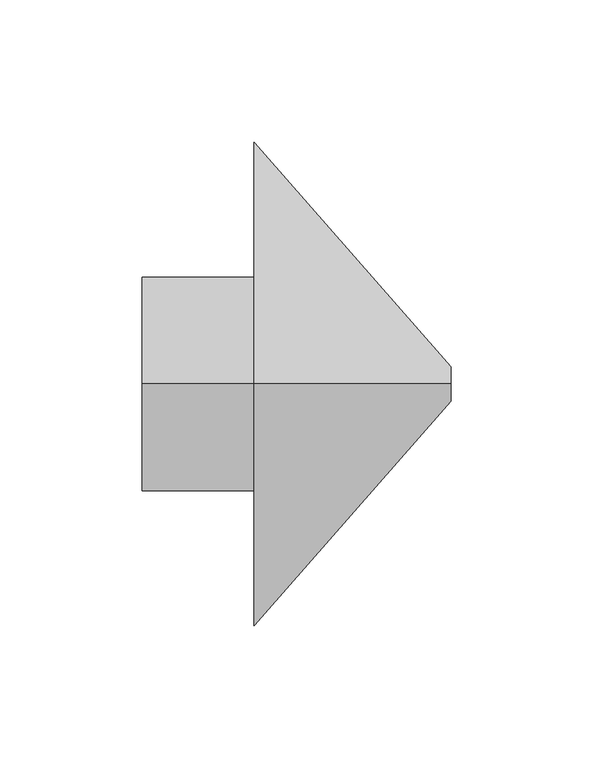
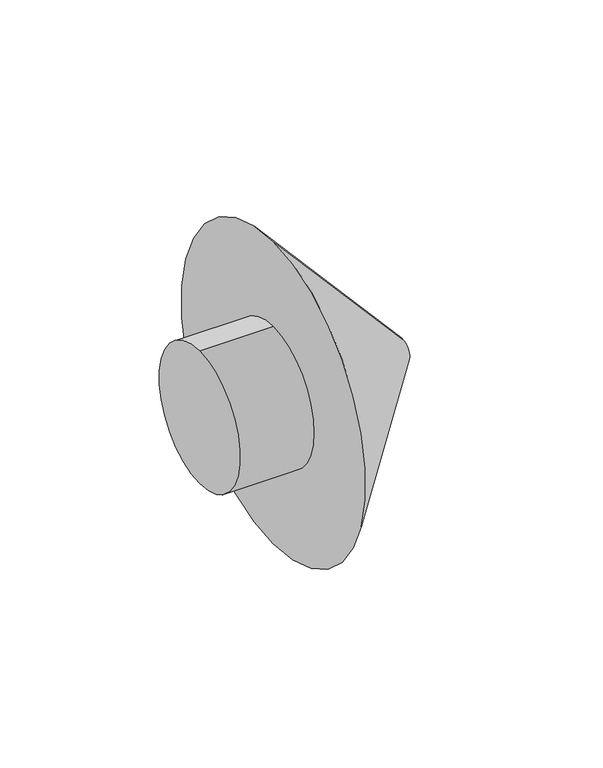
"""IFC4 building model written with IfcOpenShell, lengths in millimetres: pipe fitting geometry, PIF_KW PP wywiewka comfort_Pipelife : KW PP wywiewka, szary (DN75-160)."""

from ifc_helpers import new_model, si_unit, point, frame, origin, origin_2d, place, context, project, spatial, polyline, circle_curve, trimmed, segment, composite_curve, outline, extrude, source, transform, mapped, element, save
from ifc_brep_helpers import plane_surface, revolved_surface, advanced_brep


def pipe_fitting_e908a09f(model_context):
    return source(origin(), model_context, "Body", "SolidModel", [
        extrude(outline(composite_curve([segment(trimmed(circle_curve(origin_2d(), 37.5), [point((0.0, -37.5))], [point((0.0, 37.5))], False, "CARTESIAN"), True, "CONTINUOUS"), segment(trimmed(circle_curve(origin_2d(), 37.5), [point((0.0, 37.5))], [point((0.0, -37.5))], False, "CARTESIAN"), True, "CONTINUOUS")], self_intersect=False)), frame((-39.5, 0.0, 0.0), z_axis=(1.0, 0.0, 0.0), x_axis=(0.0, 1.0, 0.0)), (0.0, 0.0, 1.0), 39.5),
        advanced_brep(
        [(69.3, 0.0, -6.1142857), (69.3, 0.0, 6.1142857), (0.0, 0.0, -85.6), (0.0, 0.0, 85.6)],
        [
            (0, 1, circle_curve(frame((69.3, 0.0, 0.0), z_axis=(1.0, 0.0, 0.0), x_axis=(0.0, 0.0, -1.0)), 6.1142857)),
            (1, 0, circle_curve(frame((69.3, 0.0, 0.0), z_axis=(1.0, 0.0, 0.0), x_axis=(0.0, 0.0, 1.0)), 6.1142857)),
            (2, 3, circle_curve(frame((0.0, 0.0, 0.0), z_axis=(-1.0, 0.0, 0.0), x_axis=(0.0, 0.0, 1.0)), 85.6)),
            (3, 2, circle_curve(frame((0.0, 0.0, 0.0), z_axis=(-1.0, 0.0, 0.0), x_axis=(0.0, 0.0, -1.0)), 85.6)),
            (2, 0),
            (1, 3),
        ],
        [
            plane_surface(frame((69.3, 0.0, 0.0), z_axis=(1.0, 0.0, 0.0), x_axis=(0.0, -1.0, 0.0))),
            plane_surface(frame((0.0, 0.0, 0.0), z_axis=(-1.0, 0.0, 0.0), x_axis=(0.0, -1.0, 0.0))),
            revolved_surface(polyline([(69.3, 0.0, 6.114285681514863), (0.0, 0.0, 85.6)]), (74.6307692, 0.0, 0.0), (-1.0, 0.0, 0.0)),
            revolved_surface(polyline([(69.3, 0.0, -6.114285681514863), (0.0, 0.0, -85.6)]), (74.6307692, 0.0, 0.0), (-1.0, 0.0, 0.0)),
        ],
        [
            (0, [[1, 2]]),
            (1, [[3, 4]]),
            (2, [[-3, 5, -2, 6]]),
            (3, [[-4, -6, -1, -5]]),
        ],
    ),
    ])


if __name__ == "__main__":
    model = new_model("IFC4")
    model_context = context("Model", 3, world=origin())
    ifc_project = project(units=[si_unit("LENGTHUNIT", "METRE", prefix="MILLI")], contexts=[model_context])
    site = spatial("IfcSite", under=ifc_project)
    building = spatial("IfcBuilding", under=site)
    placement = place(None, origin())
    pipe_fitting_shape = pipe_fitting_e908a09f(model_context)
    element("IfcPipeFitting", 1, ObjectType="PIF_KW PP wywiewka comfort_Pipelife : KW PP wywiewka, szary (DN75-160)", at=placement, inside=building, context=model_context, shape_type="MappedRepresentation", body=[
        mapped(pipe_fitting_shape, transform((0.0, 0.0, 0.0), x_axis=(1.0, 0.0, 0.0), y_axis=(0.0, 1.0, 0.0), z_axis=(0.0, 0.0, 1.0))),
    ])
    save(model, "model.ifc")
